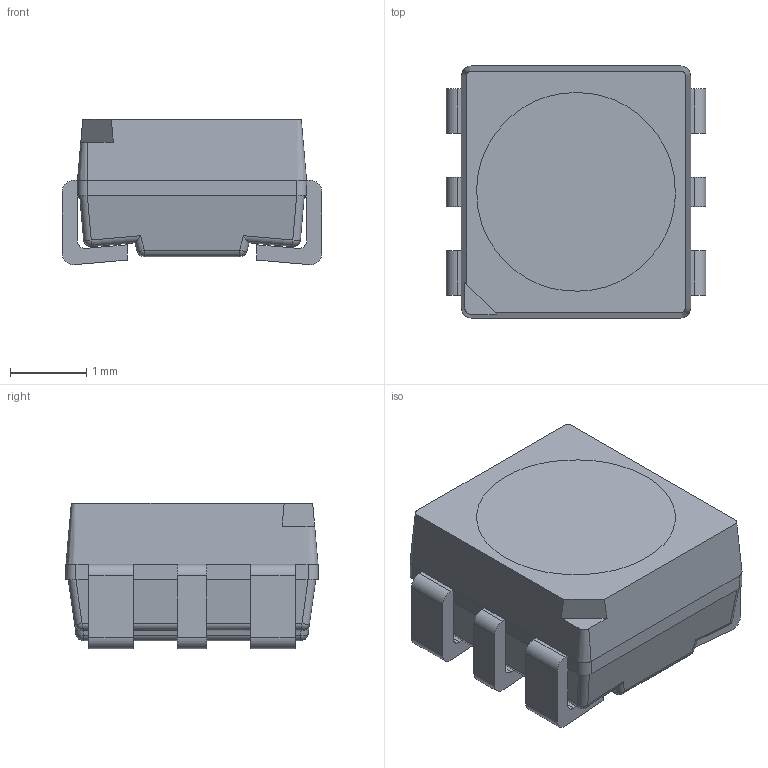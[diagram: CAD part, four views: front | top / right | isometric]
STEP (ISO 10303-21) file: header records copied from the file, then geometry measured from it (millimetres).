
FILE_DESCRIPTION (( 'STEP AP214' ), '1' );
FILE_NAME ('LWCB.STEP', '2024-01-24T20:14:13', ( '' ), ( '' ), 'SwSTEP 2.0', 'SolidWorks 2022', '' );
FILE_SCHEMA (( 'AUTOMOTIVE_DESIGN' ));
Length unit declared in the file: millimetre
Products named in the file (1): LWCB
Bounding box: 3.4 x 3.3 x 1.9 mm (x, y, z)
Volume: 16.9 mm3; surface area: 53.6 mm2
Topology: 1 solids, 1 shells, 138 faces, 369 edges, 235 vertices
Faces by surface type: plane 78, cylinder 46, sphere 10, cone 2, bspline 2
Entity records: 5363 total; most frequent: CARTESIAN_POINT 1150, ORIENTED_EDGE 738, DIRECTION 702, EDGE_CURVE 369, LINE 260, VECTOR 260, VERTEX_POINT 235, AXIS2_PLACEMENT_3D 221
